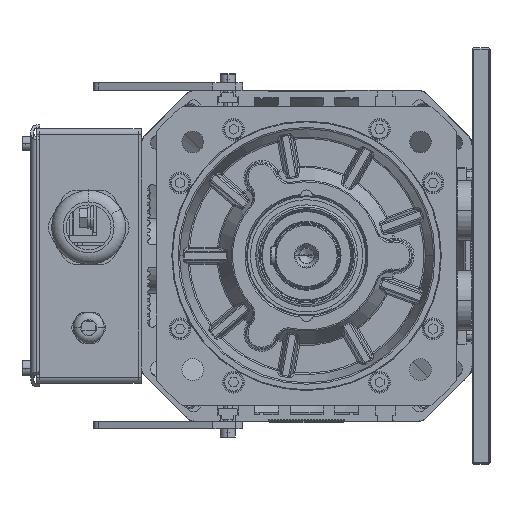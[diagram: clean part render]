
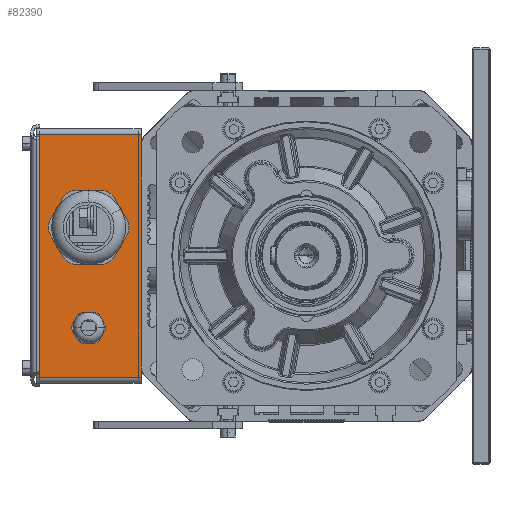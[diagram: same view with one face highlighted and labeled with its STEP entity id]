
A CAD part, left-side view. The second image highlights one B-rep face of the part: STEP entity #82390.
In plain terms, the highlighted planar face has unit normal (-1, 0, 0).
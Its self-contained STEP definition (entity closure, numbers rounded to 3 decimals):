
#80286=DIRECTION('',(0.,0.,1.));
#80287=VECTOR('',#80286,162.);
#80288=CARTESIAN_POINT('',(280.,110.5,-81.));
#80289=LINE('',#80288,#80287);
#80563=CARTESIAN_POINT('',(280.,145.5,-48.));
#80564=DIRECTION('',(-1.,0.,0.));
#80565=DIRECTION('',(0.,1.,0.));
#80566=AXIS2_PLACEMENT_3D('',#80563,#80564,#80565);
#80568=CARTESIAN_POINT('',(280.,145.5,-48.));
#80569=DIRECTION('',(-1.,0.,0.));
#80570=DIRECTION('',(0.,-1.,0.));
#80571=AXIS2_PLACEMENT_3D('',#80568,#80569,#80570);
#80573=CARTESIAN_POINT('',(280.,145.5,19.));
#80574=DIRECTION('',(-1.,0.,0.));
#80575=DIRECTION('',(0.,1.,0.));
#80576=AXIS2_PLACEMENT_3D('',#80573,#80574,#80575);
#80578=CARTESIAN_POINT('',(280.,145.5,19.));
#80579=DIRECTION('',(-1.,0.,0.));
#80580=DIRECTION('',(0.,-1.,0.));
#80581=AXIS2_PLACEMENT_3D('',#80578,#80579,#80580);
#80583=DIRECTION('',(0.,0.,1.));
#80584=VECTOR('',#80583,162.);
#80585=CARTESIAN_POINT('',(280.,180.5,-81.));
#80586=LINE('',#80585,#80584);
#81433=DIRECTION('',(0.,-1.,0.));
#81434=VECTOR('',#81433,70.);
#81435=CARTESIAN_POINT('',(280.,180.5,-81.));
#81436=LINE('',#81435,#81434);
#81453=DIRECTION('',(0.,1.,0.));
#81454=VECTOR('',#81453,70.);
#81455=CARTESIAN_POINT('',(280.,110.5,81.));
#81456=LINE('',#81455,#81454);
#81773=CARTESIAN_POINT('',(280.,155.5,-48.));
#81774=CARTESIAN_POINT('',(280.,135.5,-48.));
#81775=VERTEX_POINT('',#81773);
#81776=VERTEX_POINT('',#81774);
#81777=CARTESIAN_POINT('',(280.,170.5,19.));
#81778=CARTESIAN_POINT('',(280.,120.5,19.));
#81779=VERTEX_POINT('',#81777);
#81780=VERTEX_POINT('',#81778);
#81925=CARTESIAN_POINT('',(280.,110.5,-81.));
#81927=VERTEX_POINT('',#81925);
#81938=CARTESIAN_POINT('',(280.,110.5,81.));
#81940=VERTEX_POINT('',#81938);
#81973=CARTESIAN_POINT('',(280.,180.5,81.));
#81975=VERTEX_POINT('',#81973);
#81986=CARTESIAN_POINT('',(280.,180.5,-81.));
#81988=VERTEX_POINT('',#81986);
#82365=CARTESIAN_POINT('',(280.,110.5,-85.));
#82366=DIRECTION('',(-1.,0.,0.));
#82367=DIRECTION('',(0.,0.,1.));
#82368=AXIS2_PLACEMENT_3D('',#82365,#82366,#82367);
#82369=PLANE('',#82368);
#82371=ORIENTED_EDGE('',*,*,#82370,.F.);
#82372=ORIENTED_EDGE('',*,*,#82172,.F.);
#82374=ORIENTED_EDGE('',*,*,#82373,.F.);
#82375=ORIENTED_EDGE('',*,*,#82232,.T.);
#82376=EDGE_LOOP('',(#82371,#82372,#82374,#82375));
#82377=FACE_OUTER_BOUND('',#82376,.F.);
#82379=ORIENTED_EDGE('',*,*,#82378,.T.);
#82381=ORIENTED_EDGE('',*,*,#82380,.T.);
#82382=EDGE_LOOP('',(#82379,#82381));
#82383=FACE_BOUND('',#82382,.F.);
#82385=ORIENTED_EDGE('',*,*,#82384,.T.);
#82387=ORIENTED_EDGE('',*,*,#82386,.T.);
#82388=EDGE_LOOP('',(#82385,#82387));
#82389=FACE_BOUND('',#82388,.F.);
#82390=ADVANCED_FACE('',(#82377,#82383,#82389),#82369,.T.);
#80567=CIRCLE('',#80566,10.);
#80572=CIRCLE('',#80571,10.);
#80577=CIRCLE('',#80576,25.);
#80582=CIRCLE('',#80581,25.);
#82172=EDGE_CURVE('',#81927,#81940,#80289,.T.);
#82232=EDGE_CURVE('',#81988,#81975,#80586,.T.);
#82370=EDGE_CURVE('',#81940,#81975,#81456,.T.);
#82373=EDGE_CURVE('',#81988,#81927,#81436,.T.);
#82378=EDGE_CURVE('',#81779,#81780,#80577,.T.);
#82380=EDGE_CURVE('',#81780,#81779,#80582,.T.);
#82384=EDGE_CURVE('',#81775,#81776,#80567,.T.);
#82386=EDGE_CURVE('',#81776,#81775,#80572,.T.);
